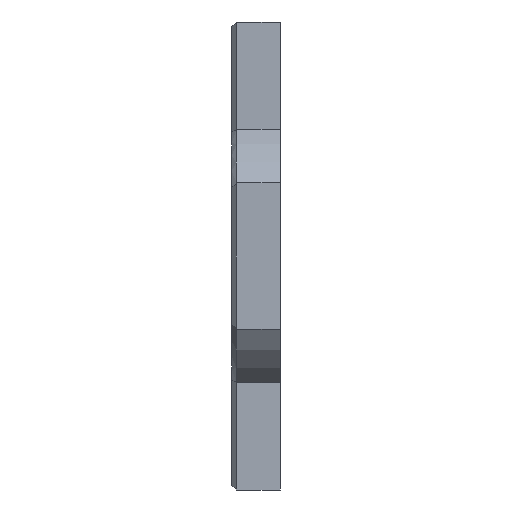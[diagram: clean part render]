
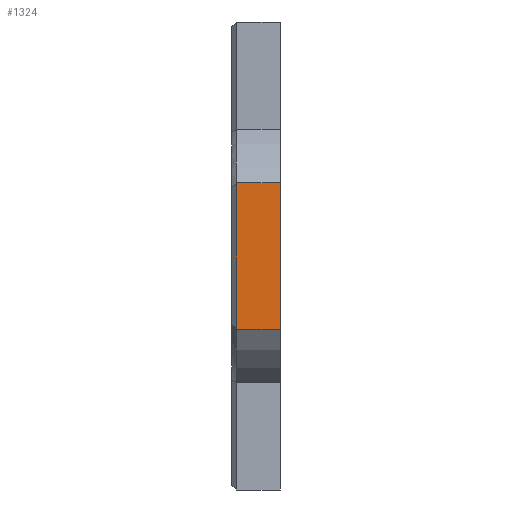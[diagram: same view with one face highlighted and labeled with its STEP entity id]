
A CAD part, left-side view. The second image highlights one B-rep face of the part: STEP entity #1324.
In plain terms, the highlighted planar face has unit normal (-1, 0, 0).
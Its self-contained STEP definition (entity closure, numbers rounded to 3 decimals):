
#57 = ORIENTED_EDGE ( 'NONE', *, *, #61, .T. ) ;
#61 = EDGE_CURVE ( 'NONE', #853, #983, #403, .T. ) ;
#83 = CARTESIAN_POINT ( 'NONE',  ( -48., 9., -15. ) ) ;
#91 = LINE ( 'NONE', #820, #1112 ) ;
#238 = DIRECTION ( 'NONE',  ( 0., 0., -1. ) ) ;
#239 = CARTESIAN_POINT ( 'NONE',  ( -48., 9., -15. ) ) ;
#242 = CARTESIAN_POINT ( 'NONE',  ( -48., 0., 15. ) ) ;
#357 = CARTESIAN_POINT ( 'NONE',  ( -48., 10., 15. ) ) ;
#358 = EDGE_CURVE ( 'NONE', #983, #698, #91, .T. ) ;
#367 = LINE ( 'NONE', #239, #1115 ) ;
#396 = LINE ( 'NONE', #1367, #1295 ) ;
#403 = LINE ( 'NONE', #962, #628 ) ;
#524 = AXIS2_PLACEMENT_3D ( 'NONE', #357, #1206, #238 ) ;
#564 = DIRECTION ( 'NONE',  ( 0., 0., -1. ) ) ;
#574 = CARTESIAN_POINT ( 'NONE',  ( -48., 0., -15. ) ) ;
#628 = VECTOR ( 'NONE', #1069, 1000. ) ;
#698 = VERTEX_POINT ( 'NONE', #242 ) ;
#742 = EDGE_CURVE ( 'NONE', #1106, #698, #396, .T. ) ;
#774 = ORIENTED_EDGE ( 'NONE', *, *, #358, .T. ) ;
#820 = CARTESIAN_POINT ( 'NONE',  ( -48., 0., 15. ) ) ;
#829 = CARTESIAN_POINT ( 'NONE',  ( -48., 9., 15. ) ) ;
#846 = FACE_OUTER_BOUND ( 'NONE', #1226, .T. ) ;
#853 = VERTEX_POINT ( 'NONE', #83 ) ;
#906 = ORIENTED_EDGE ( 'NONE', *, *, #999, .T. ) ;
#933 = DIRECTION ( 'NONE',  ( 0., -1., 0. ) ) ;
#962 = CARTESIAN_POINT ( 'NONE',  ( -48., 10., -15. ) ) ;
#981 = ORIENTED_EDGE ( 'NONE', *, *, #742, .F. ) ;
#983 = VERTEX_POINT ( 'NONE', #574 ) ;
#999 = EDGE_CURVE ( 'NONE', #1106, #853, #367, .T. ) ;
#1069 = DIRECTION ( 'NONE',  ( 0., -1., 0. ) ) ;
#1104 = PLANE ( 'NONE',  #524 ) ;
#1106 = VERTEX_POINT ( 'NONE', #829 ) ;
#1112 = VECTOR ( 'NONE', #1397, 1000. ) ;
#1115 = VECTOR ( 'NONE', #564, 1000. ) ;
#1206 = DIRECTION ( 'NONE',  ( 1., 0., 0. ) ) ;
#1226 = EDGE_LOOP ( 'NONE', ( #981, #906, #57, #774 ) ) ;
#1295 = VECTOR ( 'NONE', #933, 1000. ) ;
#1324 = ADVANCED_FACE ( 'NONE', ( #846 ), #1104, .F. ) ;
#1367 = CARTESIAN_POINT ( 'NONE',  ( -48., 10., 15. ) ) ;
#1397 = DIRECTION ( 'NONE',  ( 0., 0., 1. ) ) ;
